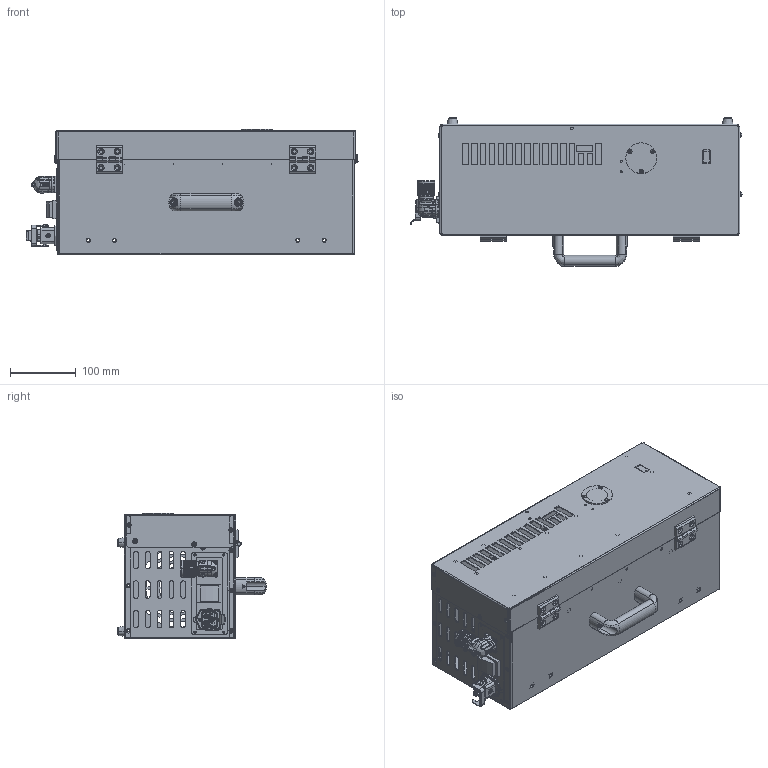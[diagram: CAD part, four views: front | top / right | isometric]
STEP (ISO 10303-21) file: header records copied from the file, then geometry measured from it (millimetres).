
FILE_DESCRIPTION (( 'STEP AP214' ), '1' );
FILE_NAME ('CS63 CS66 CS68-ERB1C1K0MN_V2.0（1kw-OEM直流控制柜）.STEP', '2025-07-24T09:42:58', ( '' ), ( '' ), 'SwSTEP 2.0', 'SolidWorks 2020', '' );
FILE_SCHEMA (( 'AUTOMOTIVE_DESIGN' ));
Length unit declared in the file: millimetre
Products named in the file (21): NA60200469_ERB1C1K0MN连接器安装钣金-威浦_默认SM-FLAT-PATTERN; GB_T70.1-2008 M6x16; NA20200223_瑤脣釱(鼠)_M23XDK8ZL; XG02-067-3; NA20200158_蟀諉ん-H3A-BK-1L.W; NA60200446_假蚾鍼踢裔啣; CS63 CS66 CS68-ERB1C1K0MN_V2.0（1kw-OEM直流控制柜）; OEM眊极-C-藷; NA60401322_OEM眊极-C; 唯恩连接器组件-电源; XG02-067-3.STEP; XAG61-L100; NA20200194_航插插芯（母端）-HQV-002.1-F; OEM眊极-C-眊极; GBT70．1-2000内六角圆柱头螺钉M3×8; 囀鞠褒す埴芛蹟隊 GB _T 70.2 - 2015   M4X8; NA20600043_船型开关-银色四脚两档带灯30A; ____.STEP; 226-1A.STEP; NHY11-16
Assembly tree (34 placements, depth 5):
  CS63 CS66 CS68-ERB1C1K0MN_V2.0（1kw-OEM直流控制柜）
    NA60401322_OEM眊极-C
      OEM眊极-C-眊极
      OEM眊极-C-藷
      XAG61-L100
      NHY11-16  x4
      GBT70．1-2000内六角圆柱头螺钉M3×8  x4
      GB_T70.1-2008 M6x16  x2
      囀鞠褒す埴芛蹟隊 GB _T 70.2 - 2015   M4X8  x4
      XG02-067-3.STEP
        226-1A.STEP  x2
        ____.STEP
      XG02-067-3
        XG02-067-3.STEP
          226-1A.STEP  x2
          ____.STEP
    唯恩连接器组件-电源
      NA20200194_航插插芯（母端）-HQV-002.1-F
      NA20200158_蟀諉ん-H3A-BK-1L.W
    NA20200223_瑤脣釱(鼠)_M23XDK8ZL
    NA60200469_ERB1C1K0MN连接器安装钣金-威浦_默认SM-FLAT-PATTERN
    NA60200446_假蚾鍼踢裔啣
    NA20600043_船型开关-银色四脚两档带灯30A
Bounding box: 506.58 x 226.94 x 191.5 mm (x, y, z)
Volume: 715742 mm3; surface area: 853576.2 mm2
Topology: 31 solids, 36 shells, 4051 faces, 10696 edges, 6868 vertices
Faces by surface type: plane 1652, cylinder 1516, cone 525, bspline 283, torus 73, sphere 2
Entity records: 133749 total; most frequent: CARTESIAN_POINT 45452, ORIENTED_EDGE 18444, DIRECTION 17332, EDGE_CURVE 9222, AXIS2_PLACEMENT_3D 6404, VERTEX_POINT 5972, VECTOR 4524, LINE 4524
